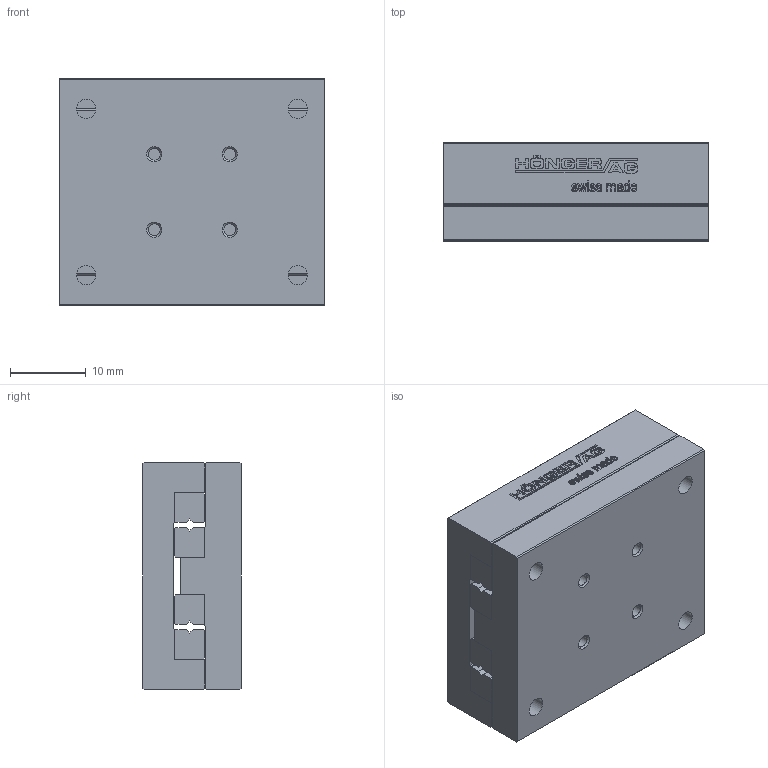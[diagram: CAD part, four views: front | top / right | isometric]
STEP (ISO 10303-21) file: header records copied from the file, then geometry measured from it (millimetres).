
FILE_DESCRIPTION(/* description */ ('STEP AP214'),/* implementation_level */ '2;1');
FILE_NAME(/* name */ 'NKL 1-35(0)',/* time_stamp */ '2025-04-23T07:56:18+02:00',/* author */ ('License CC BY-ND 4.0'),/* organization */ ('CADENAS'),/* preprocessor_version */ 'ST-DEVELOPER v19.3',/* originating_system */ 'PARTsolutions',/* authorisation */ ' ');
FILE_SCHEMA (('AUTOMOTIVE_DESIGN {1 0 10303 214 3 1 1}'));
Length unit declared in the file: millimetre
Products named in the file (3): NKL 1-35(0); NKL 1-35_1; NKL 1-35_2
Assembly tree (2 placements, depth 2):
  NKL 1-35(0)
    NKL 1-35_1
    NKL 1-35_2
Bounding box: 35 x 13 x 30 mm (x, y, z)
Volume: 12917 mm3; surface area: 7946.1 mm2
Topology: 2 solids, 2 shells, 613 faces, 1678 edges, 1108 vertices
Faces by surface type: cylinder 308, plane 289, cone 16
Full cylindrical faces by diameter (mm): 1.567 x8, 2.55 x4, 4.3 x4
Entity records: 19535 total; most frequent: DIRECTION 3510, CARTESIAN_POINT 3370, ORIENTED_EDGE 3292, EDGE_CURVE 1646, AXIS2_PLACEMENT_3D 1248, VERTEX_POINT 1108, LINE 1014, VECTOR 1014
